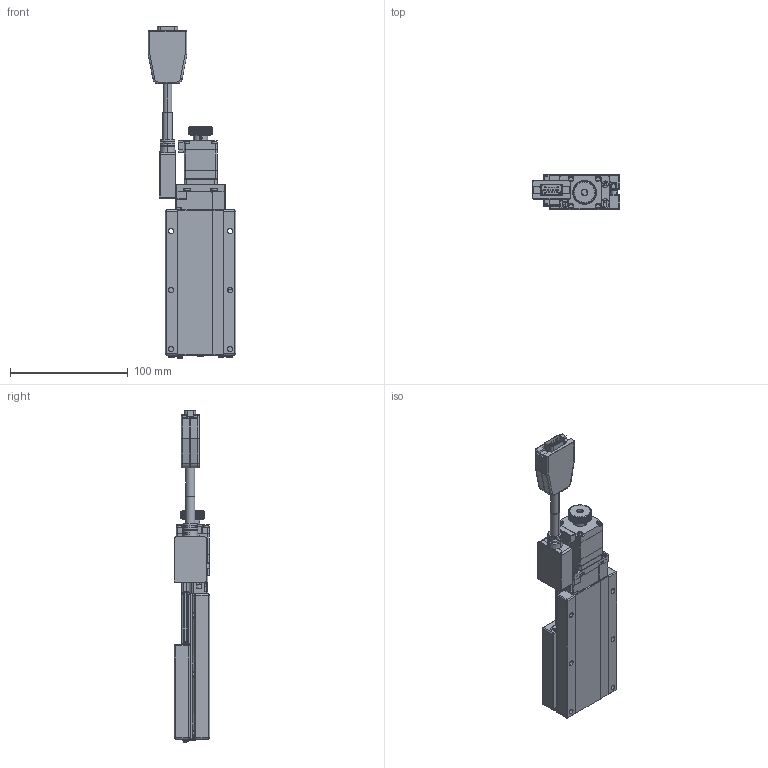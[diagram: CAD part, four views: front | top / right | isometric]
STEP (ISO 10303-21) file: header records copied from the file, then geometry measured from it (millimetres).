
FILE_DESCRIPTION (( 'STEP AP203' ), '1' );
FILE_NAME ('CXS6050-S2OP.STEP', '2024-10-14T00:50:45', ( '' ), ( '' ), 'SwSTEP 2.0', 'SolidWorks 2019', '' );
FILE_SCHEMA (( 'CONFIG_CONTROL_DESIGN' ));
Length unit declared in the file: millimetre
Products named in the file (8): SC2.5B006_SCM435(化鎳); CXS60-504; Group1^CXS6050(28框無馬達)_defeature_GMT; PKP523BK_前12mm後10mm; CXS6050-S2OP; CXS50-G28_GMT; Group2^CXS6050(28框無馬達)_defeature_GMT; AR39-A3P-10
Assembly tree (10 placements, depth 2):
  CXS6050-S2OP
    Group1^CXS6050(28框無馬達)_defeature_GMT
    Group2^CXS6050(28框無馬達)_defeature_GMT
    CXS50-G28_GMT
    CXS60-504
    PKP523BK_前12mm後10mm
    AR39-A3P-10
    SC2.5B006_SCM435(化鎳)  x4
Bounding box: 74.5 x 30 x 281.5 mm (x, y, z)
Volume: 78585.6 mm3; surface area: 90923.8 mm2
Topology: 12 solids, 17 shells, 3128 faces, 8131 edges, 5165 vertices
Faces by surface type: plane 1666, cylinder 822, torus 260, cone 166, bspline 146, sphere 68
Entity records: 102126 total; most frequent: CARTESIAN_POINT 27182, ORIENTED_EDGE 15814, DIRECTION 14962, EDGE_CURVE 7907, AXIS2_PLACEMENT_3D 5230, VERTEX_POINT 5066, LINE 4502, VECTOR 4502
